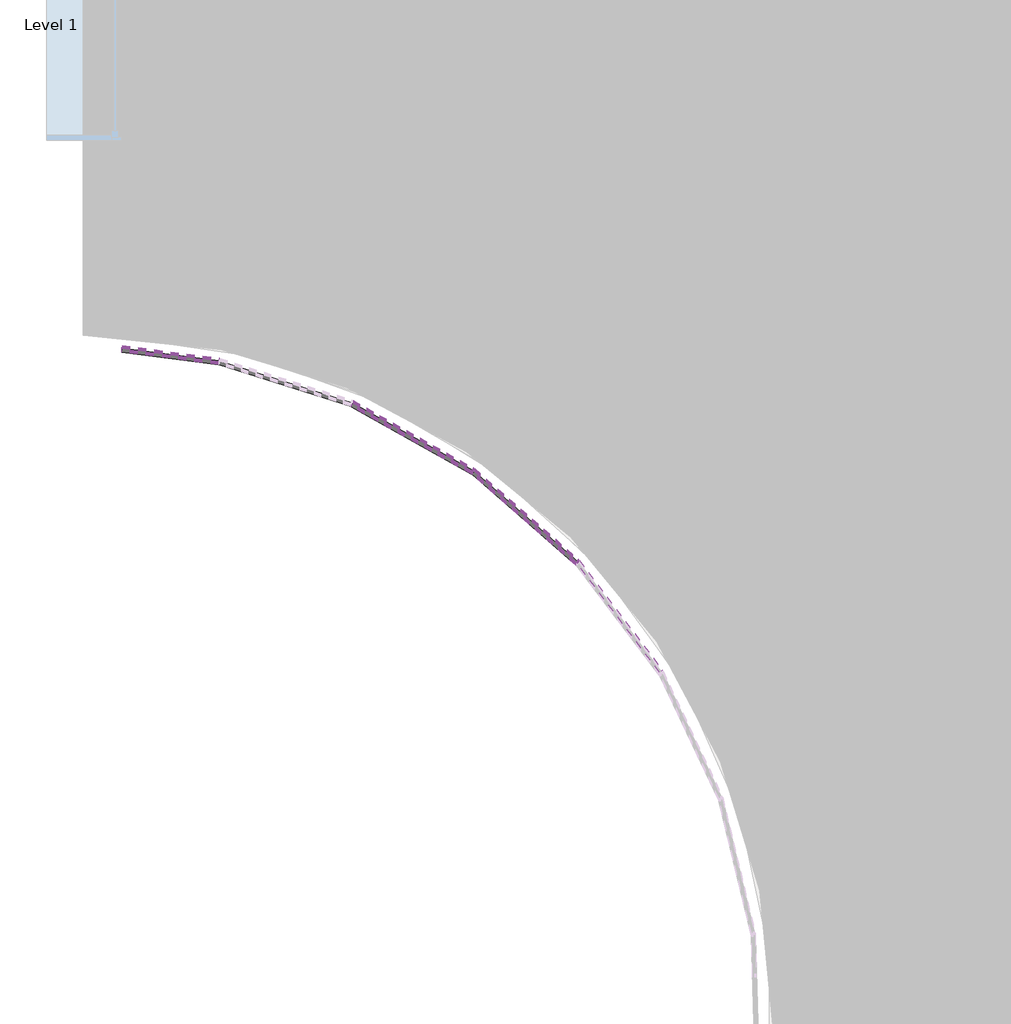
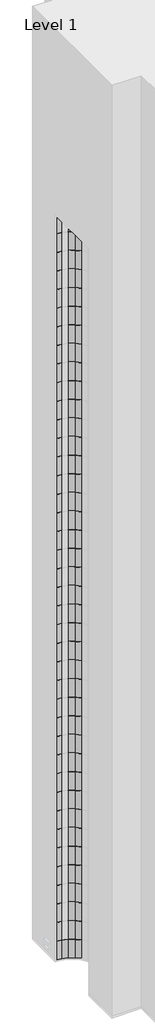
# One storey, part 4 of 20: 122 plates.
"""IFC4 building model written with IfcOpenShell, lengths in millimetres."""

from ifc_helpers import new_model, si_unit, origin, place, context, project, spatial, transform, mapped, element, save
from components import system_panel_glazed_d77d1ebf, system_panel_glazed_769dbdec

model = new_model("IFC4")

# Units and contexts
model_context = context("Model", 3, world=origin())
ifc_project = project(units=[si_unit("LENGTHUNIT", "METRE", prefix="MILLI")], contexts=[model_context])

# Site, building, storey
site = spatial("IfcSite", under=ifc_project)
building = spatial("IfcBuilding", under=site)
storey = spatial("IfcBuildingStorey", under=building, Name="Level 1", Elevation=0.0)

# Plates
placement = place(None, origin())
system_panel_glazed_shape = system_panel_glazed_d77d1ebf(model_context)
element("IfcPlate", 1, ObjectType="System Panel : Glazed", at=placement, inside=storey, context=model_context, shape_type="MappedRepresentation", body=[
    mapped(system_panel_glazed_shape, transform((-8814.9434469, -2853.0493239, 0.0), x_axis=(-0.7538025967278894, 0.657100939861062, 0.0), y_axis=(-0.657100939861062, -0.7538025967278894, 0.0), z_axis=(0.0, 0.0, 1.0))),
])
element("IfcPlate", 2, ObjectType="System Panel : Glazed", at=placement, inside=storey, context=model_context, shape_type="MappedRepresentation", body=[
    mapped(system_panel_glazed_shape, transform((-9558.369511, -2329.0151794, 0.0), x_axis=(-0.8722386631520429, 0.4890804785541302, 0.0), y_axis=(-0.4890804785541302, -0.8722386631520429, 0.0), z_axis=(0.0, 0.0, 1.0))),
])
element("IfcPlate", 3, ObjectType="System Panel : Glazed", at=placement, inside=storey, context=model_context, shape_type="MappedRepresentation", body=[
    mapped(system_panel_glazed_shape, transform((-10393.2415603, -1968.0681493, 0.0), x_axis=(-0.9538156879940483, 0.30039246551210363, 0.0), y_axis=(-0.30039246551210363, -0.9538156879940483, 0.0), z_axis=(0.0, 0.0, 1.0))),
])
element("IfcPlate", 4, ObjectType="System Panel : Glazed", at=placement, inside=storey, context=model_context, shape_type="MappedRepresentation", body=[
    mapped(system_panel_glazed_shape, transform((-8814.9434469, -2853.0493239, 3048.0), x_axis=(-0.7538025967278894, 0.657100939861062, 0.0), y_axis=(-0.657100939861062, -0.7538025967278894, 0.0), z_axis=(0.0, 0.0, 1.0))),
])
element("IfcPlate", 5, ObjectType="System Panel : Glazed", at=placement, inside=storey, context=model_context, shape_type="MappedRepresentation", body=[
    mapped(system_panel_glazed_shape, transform((-9558.369511, -2329.0151794, 3048.0), x_axis=(-0.8722386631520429, 0.4890804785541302, 0.0), y_axis=(-0.4890804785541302, -0.8722386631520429, 0.0), z_axis=(0.0, 0.0, 1.0))),
])
element("IfcPlate", 6, ObjectType="System Panel : Glazed", at=placement, inside=storey, context=model_context, shape_type="MappedRepresentation", body=[
    mapped(system_panel_glazed_shape, transform((-8814.9434469, -2853.0493239, 6096.0), x_axis=(-0.7538025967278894, 0.657100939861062, 0.0), y_axis=(-0.657100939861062, -0.7538025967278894, 0.0), z_axis=(0.0, 0.0, 1.0))),
])
element("IfcPlate", 7, ObjectType="System Panel : Glazed", at=placement, inside=storey, context=model_context, shape_type="MappedRepresentation", body=[
    mapped(system_panel_glazed_shape, transform((-9558.369511, -2329.0151794, 6096.0), x_axis=(-0.8722386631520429, 0.4890804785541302, 0.0), y_axis=(-0.4890804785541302, -0.8722386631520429, 0.0), z_axis=(0.0, 0.0, 1.0))),
])
element("IfcPlate", 8, ObjectType="System Panel : Glazed", at=placement, inside=storey, context=model_context, shape_type="MappedRepresentation", body=[
    mapped(system_panel_glazed_shape, transform((-8814.9434469, -2853.0493239, 9144.0), x_axis=(-0.7538025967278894, 0.657100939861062, 0.0), y_axis=(-0.657100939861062, -0.7538025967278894, 0.0), z_axis=(0.0, 0.0, 1.0))),
])
element("IfcPlate", 9, ObjectType="System Panel : Glazed", at=placement, inside=storey, context=model_context, shape_type="MappedRepresentation", body=[
    mapped(system_panel_glazed_shape, transform((-9558.369511, -2329.0151794, 9144.0), x_axis=(-0.8722386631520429, 0.4890804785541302, 0.0), y_axis=(-0.4890804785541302, -0.8722386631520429, 0.0), z_axis=(0.0, 0.0, 1.0))),
])
element("IfcPlate", 10, ObjectType="System Panel : Glazed", at=placement, inside=storey, context=model_context, shape_type="MappedRepresentation", body=[
    mapped(system_panel_glazed_shape, transform((-8814.9434469, -2853.0493239, 12192.0), x_axis=(-0.7538025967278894, 0.657100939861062, 0.0), y_axis=(-0.657100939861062, -0.7538025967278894, 0.0), z_axis=(0.0, 0.0, 1.0))),
])
element("IfcPlate", 11, ObjectType="System Panel : Glazed", at=placement, inside=storey, context=model_context, shape_type="MappedRepresentation", body=[
    mapped(system_panel_glazed_shape, transform((-9558.369511, -2329.0151794, 12192.0), x_axis=(-0.8722386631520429, 0.4890804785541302, 0.0), y_axis=(-0.4890804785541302, -0.8722386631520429, 0.0), z_axis=(0.0, 0.0, 1.0))),
])
element("IfcPlate", 12, ObjectType="System Panel : Glazed", at=placement, inside=storey, context=model_context, shape_type="MappedRepresentation", body=[
    mapped(system_panel_glazed_shape, transform((-8814.9434469, -2853.0493239, 15240.0), x_axis=(-0.7538025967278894, 0.657100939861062, 0.0), y_axis=(-0.657100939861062, -0.7538025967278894, 0.0), z_axis=(0.0, 0.0, 1.0))),
])
element("IfcPlate", 13, ObjectType="System Panel : Glazed", at=placement, inside=storey, context=model_context, shape_type="MappedRepresentation", body=[
    mapped(system_panel_glazed_shape, transform((-9558.369511, -2329.0151794, 15240.0), x_axis=(-0.8722386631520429, 0.4890804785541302, 0.0), y_axis=(-0.4890804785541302, -0.8722386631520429, 0.0), z_axis=(0.0, 0.0, 1.0))),
])
element("IfcPlate", 14, ObjectType="System Panel : Glazed", at=placement, inside=storey, context=model_context, shape_type="MappedRepresentation", body=[
    mapped(system_panel_glazed_shape, transform((-8814.9434469, -2853.0493239, 18288.0), x_axis=(-0.7538025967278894, 0.657100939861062, 0.0), y_axis=(-0.657100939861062, -0.7538025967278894, 0.0), z_axis=(0.0, 0.0, 1.0))),
])
element("IfcPlate", 15, ObjectType="System Panel : Glazed", at=placement, inside=storey, context=model_context, shape_type="MappedRepresentation", body=[
    mapped(system_panel_glazed_shape, transform((-9558.369511, -2329.0151794, 18288.0), x_axis=(-0.8722386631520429, 0.48908047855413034, 0.0), y_axis=(-0.48908047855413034, -0.8722386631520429, 0.0), z_axis=(0.0, 0.0, 1.0))),
])
element("IfcPlate", 16, ObjectType="System Panel : Glazed", at=placement, inside=storey, context=model_context, shape_type="MappedRepresentation", body=[
    mapped(system_panel_glazed_shape, transform((-8814.9434469, -2853.0493239, 21336.0), x_axis=(-0.7538025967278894, 0.657100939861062, 0.0), y_axis=(-0.657100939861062, -0.7538025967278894, 0.0), z_axis=(0.0, 0.0, 1.0))),
])
element("IfcPlate", 17, ObjectType="System Panel : Glazed", at=placement, inside=storey, context=model_context, shape_type="MappedRepresentation", body=[
    mapped(system_panel_glazed_shape, transform((-9558.369511, -2329.0151794, 21336.0), x_axis=(-0.8722386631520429, 0.4890804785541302, 0.0), y_axis=(-0.4890804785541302, -0.8722386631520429, 0.0), z_axis=(0.0, 0.0, 1.0))),
])
element("IfcPlate", 18, ObjectType="System Panel : Glazed", at=placement, inside=storey, context=model_context, shape_type="MappedRepresentation", body=[
    mapped(system_panel_glazed_shape, transform((-8814.9434469, -2853.0493239, 24384.0), x_axis=(-0.7538025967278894, 0.657100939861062, 0.0), y_axis=(-0.657100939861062, -0.7538025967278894, 0.0), z_axis=(0.0, 0.0, 1.0))),
])
element("IfcPlate", 19, ObjectType="System Panel : Glazed", at=placement, inside=storey, context=model_context, shape_type="MappedRepresentation", body=[
    mapped(system_panel_glazed_shape, transform((-9558.369511, -2329.0151794, 24384.0), x_axis=(-0.8722386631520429, 0.4890804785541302, 0.0), y_axis=(-0.4890804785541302, -0.8722386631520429, 0.0), z_axis=(0.0, 0.0, 1.0))),
])
element("IfcPlate", 20, ObjectType="System Panel : Glazed", at=placement, inside=storey, context=model_context, shape_type="MappedRepresentation", body=[
    mapped(system_panel_glazed_shape, transform((-8814.9434469, -2853.0493239, 27432.0), x_axis=(-0.7538025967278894, 0.657100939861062, 0.0), y_axis=(-0.657100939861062, -0.7538025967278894, 0.0), z_axis=(0.0, 0.0, 1.0))),
])
element("IfcPlate", 21, ObjectType="System Panel : Glazed", at=placement, inside=storey, context=model_context, shape_type="MappedRepresentation", body=[
    mapped(system_panel_glazed_shape, transform((-9558.369511, -2329.0151794, 27432.0), x_axis=(-0.8722386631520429, 0.4890804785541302, 0.0), y_axis=(-0.4890804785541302, -0.8722386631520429, 0.0), z_axis=(0.0, 0.0, 1.0))),
])
element("IfcPlate", 22, ObjectType="System Panel : Glazed", at=placement, inside=storey, context=model_context, shape_type="MappedRepresentation", body=[
    mapped(system_panel_glazed_shape, transform((-8814.9434469, -2853.0493239, 30480.0), x_axis=(-0.7538025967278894, 0.657100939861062, 0.0), y_axis=(-0.657100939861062, -0.7538025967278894, 0.0), z_axis=(0.0, 0.0, 1.0))),
])
element("IfcPlate", 23, ObjectType="System Panel : Glazed", at=placement, inside=storey, context=model_context, shape_type="MappedRepresentation", body=[
    mapped(system_panel_glazed_shape, transform((-9558.369511, -2329.0151794, 30480.0), x_axis=(-0.8722386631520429, 0.4890804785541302, 0.0), y_axis=(-0.4890804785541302, -0.8722386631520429, 0.0), z_axis=(0.0, 0.0, 1.0))),
])
element("IfcPlate", 24, ObjectType="System Panel : Glazed", at=placement, inside=storey, context=model_context, shape_type="MappedRepresentation", body=[
    mapped(system_panel_glazed_shape, transform((-8814.9434469, -2853.0493239, 33528.0), x_axis=(-0.7538025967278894, 0.657100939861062, 0.0), y_axis=(-0.657100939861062, -0.7538025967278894, 0.0), z_axis=(0.0, 0.0, 1.0))),
])
element("IfcPlate", 25, ObjectType="System Panel : Glazed", at=placement, inside=storey, context=model_context, shape_type="MappedRepresentation", body=[
    mapped(system_panel_glazed_shape, transform((-9558.369511, -2329.0151794, 33528.0), x_axis=(-0.8722386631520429, 0.4890804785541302, 0.0), y_axis=(-0.4890804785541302, -0.8722386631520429, 0.0), z_axis=(0.0, 0.0, 1.0))),
])
element("IfcPlate", 26, ObjectType="System Panel : Glazed", at=placement, inside=storey, context=model_context, shape_type="MappedRepresentation", body=[
    mapped(system_panel_glazed_shape, transform((-8814.9434469, -2853.0493239, 36576.0), x_axis=(-0.7538025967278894, 0.657100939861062, 0.0), y_axis=(-0.657100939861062, -0.7538025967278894, 0.0), z_axis=(0.0, 0.0, 1.0))),
])
element("IfcPlate", 27, ObjectType="System Panel : Glazed", at=placement, inside=storey, context=model_context, shape_type="MappedRepresentation", body=[
    mapped(system_panel_glazed_shape, transform((-9558.369511, -2329.0151794, 36576.0), x_axis=(-0.8722386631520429, 0.4890804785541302, 0.0), y_axis=(-0.4890804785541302, -0.8722386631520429, 0.0), z_axis=(0.0, 0.0, 1.0))),
])
element("IfcPlate", 28, ObjectType="System Panel : Glazed", at=placement, inside=storey, context=model_context, shape_type="MappedRepresentation", body=[
    mapped(system_panel_glazed_shape, transform((-8814.9434469, -2853.0493239, 39624.0), x_axis=(-0.7538025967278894, 0.657100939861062, 0.0), y_axis=(-0.657100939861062, -0.7538025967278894, 0.0), z_axis=(0.0, 0.0, 1.0))),
])
element("IfcPlate", 29, ObjectType="System Panel : Glazed", at=placement, inside=storey, context=model_context, shape_type="MappedRepresentation", body=[
    mapped(system_panel_glazed_shape, transform((-9558.369511, -2329.0151794, 39624.0), x_axis=(-0.8722386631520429, 0.4890804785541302, 0.0), y_axis=(-0.4890804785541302, -0.8722386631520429, 0.0), z_axis=(0.0, 0.0, 1.0))),
])
element("IfcPlate", 30, ObjectType="System Panel : Glazed", at=placement, inside=storey, context=model_context, shape_type="MappedRepresentation", body=[
    mapped(system_panel_glazed_shape, transform((-8814.9434469, -2853.0493239, 42672.0), x_axis=(-0.7538025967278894, 0.657100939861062, 0.0), y_axis=(-0.657100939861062, -0.7538025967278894, 0.0), z_axis=(0.0, 0.0, 1.0))),
])
element("IfcPlate", 31, ObjectType="System Panel : Glazed", at=placement, inside=storey, context=model_context, shape_type="MappedRepresentation", body=[
    mapped(system_panel_glazed_shape, transform((-9558.369511, -2329.0151794, 42672.0), x_axis=(-0.8722386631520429, 0.4890804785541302, 0.0), y_axis=(-0.4890804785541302, -0.8722386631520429, 0.0), z_axis=(0.0, 0.0, 1.0))),
])
element("IfcPlate", 32, ObjectType="System Panel : Glazed", at=placement, inside=storey, context=model_context, shape_type="MappedRepresentation", body=[
    mapped(system_panel_glazed_shape, transform((-8814.9434469, -2853.0493239, 45720.0), x_axis=(-0.7538025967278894, 0.657100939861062, 0.0), y_axis=(-0.657100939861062, -0.7538025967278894, 0.0), z_axis=(0.0, 0.0, 1.0))),
])
element("IfcPlate", 33, ObjectType="System Panel : Glazed", at=placement, inside=storey, context=model_context, shape_type="MappedRepresentation", body=[
    mapped(system_panel_glazed_shape, transform((-9558.369511, -2329.0151794, 45720.0), x_axis=(-0.8722386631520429, 0.4890804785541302, 0.0), y_axis=(-0.4890804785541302, -0.8722386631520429, 0.0), z_axis=(0.0, 0.0, 1.0))),
])
element("IfcPlate", 34, ObjectType="System Panel : Glazed", at=placement, inside=storey, context=model_context, shape_type="MappedRepresentation", body=[
    mapped(system_panel_glazed_shape, transform((-8814.9434469, -2853.0493239, 48768.0), x_axis=(-0.7538025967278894, 0.657100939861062, 0.0), y_axis=(-0.657100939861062, -0.7538025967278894, 0.0), z_axis=(0.0, 0.0, 1.0))),
])
element("IfcPlate", 35, ObjectType="System Panel : Glazed", at=placement, inside=storey, context=model_context, shape_type="MappedRepresentation", body=[
    mapped(system_panel_glazed_shape, transform((-9558.369511, -2329.0151794, 48768.0), x_axis=(-0.8722386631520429, 0.4890804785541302, 0.0), y_axis=(-0.4890804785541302, -0.8722386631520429, 0.0), z_axis=(0.0, 0.0, 1.0))),
])
element("IfcPlate", 36, ObjectType="System Panel : Glazed", at=placement, inside=storey, context=model_context, shape_type="MappedRepresentation", body=[
    mapped(system_panel_glazed_shape, transform((-8814.9434469, -2853.0493239, 51816.0), x_axis=(-0.7538025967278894, 0.657100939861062, 0.0), y_axis=(-0.657100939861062, -0.7538025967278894, 0.0), z_axis=(0.0, 0.0, 1.0))),
])
element("IfcPlate", 37, ObjectType="System Panel : Glazed", at=placement, inside=storey, context=model_context, shape_type="MappedRepresentation", body=[
    mapped(system_panel_glazed_shape, transform((-9558.369511, -2329.0151794, 51816.0), x_axis=(-0.8722386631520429, 0.4890804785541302, 0.0), y_axis=(-0.4890804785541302, -0.8722386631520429, 0.0), z_axis=(0.0, 0.0, 1.0))),
])
element("IfcPlate", 38, ObjectType="System Panel : Glazed", at=placement, inside=storey, context=model_context, shape_type="MappedRepresentation", body=[
    mapped(system_panel_glazed_shape, transform((-8814.9434469, -2853.0493239, 54864.0), x_axis=(-0.7538025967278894, 0.657100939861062, 0.0), y_axis=(-0.657100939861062, -0.7538025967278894, 0.0), z_axis=(0.0, 0.0, 1.0))),
])
element("IfcPlate", 39, ObjectType="System Panel : Glazed", at=placement, inside=storey, context=model_context, shape_type="MappedRepresentation", body=[
    mapped(system_panel_glazed_shape, transform((-9558.369511, -2329.0151794, 54864.0), x_axis=(-0.8722386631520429, 0.4890804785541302, 0.0), y_axis=(-0.4890804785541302, -0.8722386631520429, 0.0), z_axis=(0.0, 0.0, 1.0))),
])
element("IfcPlate", 40, ObjectType="System Panel : Glazed", at=placement, inside=storey, context=model_context, shape_type="MappedRepresentation", body=[
    mapped(system_panel_glazed_shape, transform((-8814.9434469, -2853.0493239, 57912.0), x_axis=(-0.7538025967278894, 0.657100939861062, 0.0), y_axis=(-0.657100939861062, -0.7538025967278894, 0.0), z_axis=(0.0, 0.0, 1.0))),
])
element("IfcPlate", 41, ObjectType="System Panel : Glazed", at=placement, inside=storey, context=model_context, shape_type="MappedRepresentation", body=[
    mapped(system_panel_glazed_shape, transform((-9558.369511, -2329.0151794, 57912.0), x_axis=(-0.8722386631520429, 0.4890804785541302, 0.0), y_axis=(-0.4890804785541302, -0.8722386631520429, 0.0), z_axis=(0.0, 0.0, 1.0))),
])
element("IfcPlate", 42, ObjectType="System Panel : Glazed", at=placement, inside=storey, context=model_context, shape_type="MappedRepresentation", body=[
    mapped(system_panel_glazed_shape, transform((-8814.9434469, -2853.0493239, 60960.0), x_axis=(-0.7538025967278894, 0.657100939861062, 0.0), y_axis=(-0.657100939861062, -0.7538025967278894, 0.0), z_axis=(0.0, 0.0, 1.0))),
])
element("IfcPlate", 43, ObjectType="System Panel : Glazed", at=placement, inside=storey, context=model_context, shape_type="MappedRepresentation", body=[
    mapped(system_panel_glazed_shape, transform((-9558.369511, -2329.0151794, 60960.0), x_axis=(-0.8722386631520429, 0.4890804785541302, 0.0), y_axis=(-0.4890804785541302, -0.8722386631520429, 0.0), z_axis=(0.0, 0.0, 1.0))),
])
element("IfcPlate", 44, ObjectType="System Panel : Glazed", at=placement, inside=storey, context=model_context, shape_type="MappedRepresentation", body=[
    mapped(system_panel_glazed_shape, transform((-8814.9434469, -2853.0493239, 64008.0), x_axis=(-0.7538025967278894, 0.657100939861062, 0.0), y_axis=(-0.657100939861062, -0.7538025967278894, 0.0), z_axis=(0.0, 0.0, 1.0))),
])
element("IfcPlate", 45, ObjectType="System Panel : Glazed", at=placement, inside=storey, context=model_context, shape_type="MappedRepresentation", body=[
    mapped(system_panel_glazed_shape, transform((-9558.369511, -2329.0151794, 64008.0), x_axis=(-0.8722386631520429, 0.4890804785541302, 0.0), y_axis=(-0.4890804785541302, -0.8722386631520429, 0.0), z_axis=(0.0, 0.0, 1.0))),
])
element("IfcPlate", 46, ObjectType="System Panel : Glazed", at=placement, inside=storey, context=model_context, shape_type="MappedRepresentation", body=[
    mapped(system_panel_glazed_shape, transform((-8814.9434469, -2853.0493239, 67056.0), x_axis=(-0.7538025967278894, 0.657100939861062, 0.0), y_axis=(-0.657100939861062, -0.7538025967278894, 0.0), z_axis=(0.0, 0.0, 1.0))),
])
element("IfcPlate", 47, ObjectType="System Panel : Glazed", at=placement, inside=storey, context=model_context, shape_type="MappedRepresentation", body=[
    mapped(system_panel_glazed_shape, transform((-9558.369511, -2329.0151794, 67056.0), x_axis=(-0.8722386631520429, 0.4890804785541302, 0.0), y_axis=(-0.4890804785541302, -0.8722386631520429, 0.0), z_axis=(0.0, 0.0, 1.0))),
])
element("IfcPlate", 48, ObjectType="System Panel : Glazed", at=placement, inside=storey, context=model_context, shape_type="MappedRepresentation", body=[
    mapped(system_panel_glazed_shape, transform((-8814.9434469, -2853.0493239, 70104.0), x_axis=(-0.7538025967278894, 0.657100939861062, 0.0), y_axis=(-0.657100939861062, -0.7538025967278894, 0.0), z_axis=(0.0, 0.0, 1.0))),
])
element("IfcPlate", 49, ObjectType="System Panel : Glazed", at=placement, inside=storey, context=model_context, shape_type="MappedRepresentation", body=[
    mapped(system_panel_glazed_shape, transform((-9558.369511, -2329.0151794, 70104.0), x_axis=(-0.8722386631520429, 0.4890804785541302, 0.0), y_axis=(-0.4890804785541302, -0.8722386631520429, 0.0), z_axis=(0.0, 0.0, 1.0))),
])
element("IfcPlate", 50, ObjectType="System Panel : Glazed", at=placement, inside=storey, context=model_context, shape_type="MappedRepresentation", body=[
    mapped(system_panel_glazed_shape, transform((-8814.9434469, -2853.0493239, 73152.0), x_axis=(-0.7538025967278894, 0.657100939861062, 0.0), y_axis=(-0.657100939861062, -0.7538025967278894, 0.0), z_axis=(0.0, 0.0, 1.0))),
])
element("IfcPlate", 51, ObjectType="System Panel : Glazed", at=placement, inside=storey, context=model_context, shape_type="MappedRepresentation", body=[
    mapped(system_panel_glazed_shape, transform((-9558.369511, -2329.0151794, 73152.0), x_axis=(-0.8722386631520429, 0.4890804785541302, 0.0), y_axis=(-0.4890804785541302, -0.8722386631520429, 0.0), z_axis=(0.0, 0.0, 1.0))),
])
element("IfcPlate", 52, ObjectType="System Panel : Glazed", at=placement, inside=storey, context=model_context, shape_type="MappedRepresentation", body=[
    mapped(system_panel_glazed_shape, transform((-8814.9434469, -2853.0493239, 76200.0), x_axis=(-0.7538025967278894, 0.657100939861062, 0.0), y_axis=(-0.657100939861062, -0.7538025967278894, 0.0), z_axis=(0.0, 0.0, 1.0))),
])
element("IfcPlate", 53, ObjectType="System Panel : Glazed", at=placement, inside=storey, context=model_context, shape_type="MappedRepresentation", body=[
    mapped(system_panel_glazed_shape, transform((-9558.369511, -2329.0151794, 76200.0), x_axis=(-0.8722386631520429, 0.4890804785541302, 0.0), y_axis=(-0.4890804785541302, -0.8722386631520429, 0.0), z_axis=(0.0, 0.0, 1.0))),
])
element("IfcPlate", 54, ObjectType="System Panel : Glazed", at=placement, inside=storey, context=model_context, shape_type="MappedRepresentation", body=[
    mapped(system_panel_glazed_shape, transform((-8814.9434469, -2853.0493239, 79248.0), x_axis=(-0.7538025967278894, 0.657100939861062, 0.0), y_axis=(-0.657100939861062, -0.7538025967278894, 0.0), z_axis=(0.0, 0.0, 1.0))),
])
element("IfcPlate", 55, ObjectType="System Panel : Glazed", at=placement, inside=storey, context=model_context, shape_type="MappedRepresentation", body=[
    mapped(system_panel_glazed_shape, transform((-9558.369511, -2329.0151794, 79248.0), x_axis=(-0.8722386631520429, 0.4890804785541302, 0.0), y_axis=(-0.4890804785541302, -0.8722386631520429, 0.0), z_axis=(0.0, 0.0, 1.0))),
])
element("IfcPlate", 56, ObjectType="System Panel : Glazed", at=placement, inside=storey, context=model_context, shape_type="MappedRepresentation", body=[
    mapped(system_panel_glazed_shape, transform((-8814.9434469, -2853.0493239, 82296.0), x_axis=(-0.7538025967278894, 0.657100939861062, 0.0), y_axis=(-0.657100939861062, -0.7538025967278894, 0.0), z_axis=(0.0, 0.0, 1.0))),
])
element("IfcPlate", 57, ObjectType="System Panel : Glazed", at=placement, inside=storey, context=model_context, shape_type="MappedRepresentation", body=[
    mapped(system_panel_glazed_shape, transform((-9558.369511, -2329.0151794, 82296.0), x_axis=(-0.8722386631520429, 0.4890804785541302, 0.0), y_axis=(-0.4890804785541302, -0.8722386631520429, 0.0), z_axis=(0.0, 0.0, 1.0))),
])
element("IfcPlate", 58, ObjectType="System Panel : Glazed", at=placement, inside=storey, context=model_context, shape_type="MappedRepresentation", body=[
    mapped(system_panel_glazed_shape, transform((-8814.9434469, -2853.0493239, 85344.0), x_axis=(-0.7538025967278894, 0.657100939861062, 0.0), y_axis=(-0.657100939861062, -0.7538025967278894, 0.0), z_axis=(0.0, 0.0, 1.0))),
])
element("IfcPlate", 59, ObjectType="System Panel : Glazed", at=placement, inside=storey, context=model_context, shape_type="MappedRepresentation", body=[
    mapped(system_panel_glazed_shape, transform((-9558.369511, -2329.0151794, 85344.0), x_axis=(-0.8722386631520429, 0.4890804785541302, 0.0), y_axis=(-0.4890804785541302, -0.8722386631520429, 0.0), z_axis=(0.0, 0.0, 1.0))),
])
element("IfcPlate", 60, ObjectType="System Panel : Glazed", at=placement, inside=storey, context=model_context, shape_type="MappedRepresentation", body=[
    mapped(system_panel_glazed_shape, transform((-8814.9434469, -2853.0493239, 88392.0), x_axis=(-0.7538025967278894, 0.657100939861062, 0.0), y_axis=(-0.657100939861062, -0.7538025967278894, 0.0), z_axis=(0.0, 0.0, 1.0))),
])
element("IfcPlate", 61, ObjectType="System Panel : Glazed", at=placement, inside=storey, context=model_context, shape_type="MappedRepresentation", body=[
    mapped(system_panel_glazed_shape, transform((-9558.369511, -2329.0151794, 88392.0), x_axis=(-0.8722386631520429, 0.4890804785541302, 0.0), y_axis=(-0.4890804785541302, -0.8722386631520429, 0.0), z_axis=(0.0, 0.0, 1.0))),
])
element("IfcPlate", 62, ObjectType="System Panel : Glazed", at=placement, inside=storey, context=model_context, shape_type="MappedRepresentation", body=[
    mapped(system_panel_glazed_shape, transform((-8814.9434469, -2853.0493239, 91440.0), x_axis=(-0.7538025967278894, 0.657100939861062, 0.0), y_axis=(-0.657100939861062, -0.7538025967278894, 0.0), z_axis=(0.0, 0.0, 1.0))),
])
element("IfcPlate", 63, ObjectType="System Panel : Glazed", at=placement, inside=storey, context=model_context, shape_type="MappedRepresentation", body=[
    mapped(system_panel_glazed_shape, transform((-9558.369511, -2329.0151794, 91440.0), x_axis=(-0.8722386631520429, 0.4890804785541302, 0.0), y_axis=(-0.4890804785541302, -0.8722386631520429, 0.0), z_axis=(0.0, 0.0, 1.0))),
])
element("IfcPlate", 64, ObjectType="System Panel : Glazed", at=placement, inside=storey, context=model_context, shape_type="MappedRepresentation", body=[
    mapped(system_panel_glazed_shape, transform((-8814.9434469, -2853.0493239, 94488.0), x_axis=(-0.7538025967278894, 0.657100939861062, 0.0), y_axis=(-0.657100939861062, -0.7538025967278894, 0.0), z_axis=(0.0, 0.0, 1.0))),
])
element("IfcPlate", 65, ObjectType="System Panel : Glazed", at=placement, inside=storey, context=model_context, shape_type="MappedRepresentation", body=[
    mapped(system_panel_glazed_shape, transform((-9558.369511, -2329.0151794, 94488.0), x_axis=(-0.8722386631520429, 0.4890804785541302, 0.0), y_axis=(-0.4890804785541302, -0.8722386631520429, 0.0), z_axis=(0.0, 0.0, 1.0))),
])
element("IfcPlate", 66, ObjectType="System Panel : Glazed", at=placement, inside=storey, context=model_context, shape_type="MappedRepresentation", body=[
    mapped(system_panel_glazed_shape, transform((-8814.9434469, -2853.0493239, 97536.0), x_axis=(-0.7538025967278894, 0.657100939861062, 0.0), y_axis=(-0.657100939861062, -0.7538025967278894, 0.0), z_axis=(0.0, 0.0, 1.0))),
])
element("IfcPlate", 67, ObjectType="System Panel : Glazed", at=placement, inside=storey, context=model_context, shape_type="MappedRepresentation", body=[
    mapped(system_panel_glazed_shape, transform((-9558.369511, -2329.0151794, 97536.0), x_axis=(-0.8722386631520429, 0.4890804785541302, 0.0), y_axis=(-0.4890804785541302, -0.8722386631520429, 0.0), z_axis=(0.0, 0.0, 1.0))),
])
element("IfcPlate", 68, ObjectType="System Panel : Glazed", at=placement, inside=storey, context=model_context, shape_type="MappedRepresentation", body=[
    mapped(system_panel_glazed_shape, transform((-8814.9434469, -2853.0493239, 100584.0), x_axis=(-0.7538025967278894, 0.657100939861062, 0.0), y_axis=(-0.657100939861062, -0.7538025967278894, 0.0), z_axis=(0.0, 0.0, 1.0))),
])
element("IfcPlate", 69, ObjectType="System Panel : Glazed", at=placement, inside=storey, context=model_context, shape_type="MappedRepresentation", body=[
    mapped(system_panel_glazed_shape, transform((-9558.369511, -2329.0151794, 100584.0), x_axis=(-0.8722386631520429, 0.4890804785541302, 0.0), y_axis=(-0.4890804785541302, -0.8722386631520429, 0.0), z_axis=(0.0, 0.0, 1.0))),
])
element("IfcPlate", 70, ObjectType="System Panel : Glazed", at=placement, inside=storey, context=model_context, shape_type="MappedRepresentation", body=[
    mapped(system_panel_glazed_shape, transform((-8814.9434469, -2853.0493239, 103632.0), x_axis=(-0.7538025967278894, 0.657100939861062, 0.0), y_axis=(-0.657100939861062, -0.7538025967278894, 0.0), z_axis=(0.0, 0.0, 1.0))),
])
element("IfcPlate", 71, ObjectType="System Panel : Glazed", at=placement, inside=storey, context=model_context, shape_type="MappedRepresentation", body=[
    mapped(system_panel_glazed_shape, transform((-9558.369511, -2329.0151794, 103632.0), x_axis=(-0.8722386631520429, 0.4890804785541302, 0.0), y_axis=(-0.4890804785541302, -0.8722386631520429, 0.0), z_axis=(0.0, 0.0, 1.0))),
])
element("IfcPlate", 72, ObjectType="System Panel : Glazed", at=placement, inside=storey, context=model_context, shape_type="MappedRepresentation", body=[
    mapped(system_panel_glazed_shape, transform((-8814.9434469, -2853.0493239, 106680.0), x_axis=(-0.7538025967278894, 0.657100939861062, 0.0), y_axis=(-0.657100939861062, -0.7538025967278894, 0.0), z_axis=(0.0, 0.0, 1.0))),
])
element("IfcPlate", 73, ObjectType="System Panel : Glazed", at=placement, inside=storey, context=model_context, shape_type="MappedRepresentation", body=[
    mapped(system_panel_glazed_shape, transform((-9558.369511, -2329.0151794, 106680.0), x_axis=(-0.8722386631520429, 0.4890804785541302, 0.0), y_axis=(-0.4890804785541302, -0.8722386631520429, 0.0), z_axis=(0.0, 0.0, 1.0))),
])
element("IfcPlate", 74, ObjectType="System Panel : Glazed", at=placement, inside=storey, context=model_context, shape_type="MappedRepresentation", body=[
    mapped(system_panel_glazed_shape, transform((-8814.9434469, -2853.0493239, 109728.0), x_axis=(-0.7538025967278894, 0.657100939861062, 0.0), y_axis=(-0.657100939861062, -0.7538025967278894, 0.0), z_axis=(0.0, 0.0, 1.0))),
])
element("IfcPlate", 75, ObjectType="System Panel : Glazed", at=placement, inside=storey, context=model_context, shape_type="MappedRepresentation", body=[
    mapped(system_panel_glazed_shape, transform((-9558.369511, -2329.0151794, 109728.0), x_axis=(-0.8722386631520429, 0.4890804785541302, 0.0), y_axis=(-0.4890804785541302, -0.8722386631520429, 0.0), z_axis=(0.0, 0.0, 1.0))),
])
element("IfcPlate", 76, ObjectType="System Panel : Glazed", at=placement, inside=storey, context=model_context, shape_type="MappedRepresentation", body=[
    mapped(system_panel_glazed_shape, transform((-8814.9434469, -2853.0493239, 112776.0), x_axis=(-0.7538025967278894, 0.657100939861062, 0.0), y_axis=(-0.657100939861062, -0.7538025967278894, 0.0), z_axis=(0.0, 0.0, 1.0))),
])
element("IfcPlate", 77, ObjectType="System Panel : Glazed", at=placement, inside=storey, context=model_context, shape_type="MappedRepresentation", body=[
    mapped(system_panel_glazed_shape, transform((-9558.369511, -2329.0151794, 112776.0), x_axis=(-0.8722386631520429, 0.4890804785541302, 0.0), y_axis=(-0.4890804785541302, -0.8722386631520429, 0.0), z_axis=(0.0, 0.0, 1.0))),
])
element("IfcPlate", 78, ObjectType="System Panel : Glazed", at=placement, inside=storey, context=model_context, shape_type="MappedRepresentation", body=[
    mapped(system_panel_glazed_shape, transform((-8814.9434469, -2853.0493239, 115824.0), x_axis=(-0.7538025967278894, 0.657100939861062, 0.0), y_axis=(-0.657100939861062, -0.7538025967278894, 0.0), z_axis=(0.0, 0.0, 1.0))),
])
element("IfcPlate", 79, ObjectType="System Panel : Glazed", at=placement, inside=storey, context=model_context, shape_type="MappedRepresentation", body=[
    mapped(system_panel_glazed_shape, transform((-9558.369511, -2329.0151794, 115824.0), x_axis=(-0.8722386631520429, 0.4890804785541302, 0.0), y_axis=(-0.4890804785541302, -0.8722386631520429, 0.0), z_axis=(0.0, 0.0, 1.0))),
])
element("IfcPlate", 80, ObjectType="System Panel : Glazed", at=placement, inside=storey, context=model_context, shape_type="MappedRepresentation", body=[
    mapped(system_panel_glazed_shape, transform((-8194.3790499, -3518.0259599, 118872.0), x_axis=(-0.6035123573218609, 0.7973536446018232, 0.0), y_axis=(-0.7973536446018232, -0.6035123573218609, 0.0), z_axis=(0.0, 0.0, 1.0))),
])
element("IfcPlate", 81, ObjectType="System Panel : Glazed", at=placement, inside=storey, context=model_context, shape_type="MappedRepresentation", body=[
    mapped(system_panel_glazed_shape, transform((-8814.9434469, -2853.0493239, 118872.0), x_axis=(-0.7538025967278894, 0.657100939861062, 0.0), y_axis=(-0.657100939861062, -0.7538025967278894, 0.0), z_axis=(0.0, 0.0, 1.0))),
])
element("IfcPlate", 82, ObjectType="System Panel : Glazed", at=placement, inside=storey, context=model_context, shape_type="MappedRepresentation", body=[
    mapped(system_panel_glazed_shape, transform((-9558.369511, -2329.0151794, 118872.0), x_axis=(-0.8722386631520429, 0.4890804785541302, 0.0), y_axis=(-0.4890804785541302, -0.8722386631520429, 0.0), z_axis=(0.0, 0.0, 1.0))),
])
system_panel_glazed_2_shape = system_panel_glazed_769dbdec(model_context)
element("IfcPlate", 83, ObjectType="System Panel : Glazed", at=placement, inside=storey, context=model_context, shape_type="MappedRepresentation", body=[
    mapped(system_panel_glazed_2_shape, transform((-11150.4320192, -1788.9838434, 0.0), x_axis=(-0.9916551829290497, 0.12891857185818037, 0.0), y_axis=(-0.12891857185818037, -0.9916551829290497, 0.0), z_axis=(0.0, 0.0, 1.0))),
])
element("IfcPlate", 84, ObjectType="System Panel : Glazed", at=placement, inside=storey, context=model_context, shape_type="MappedRepresentation", body=[
    mapped(system_panel_glazed_2_shape, transform((-11150.4320192, -1788.9838434, 3048.0), x_axis=(-0.9916551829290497, 0.12891857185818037, 0.0), y_axis=(-0.12891857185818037, -0.9916551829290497, 0.0), z_axis=(0.0, 0.0, 1.0))),
])
element("IfcPlate", 85, ObjectType="System Panel : Glazed", at=placement, inside=storey, context=model_context, shape_type="MappedRepresentation", body=[
    mapped(system_panel_glazed_2_shape, transform((-11150.4320192, -1788.9838434, 6096.0), x_axis=(-0.9916551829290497, 0.12891857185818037, 0.0), y_axis=(-0.12891857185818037, -0.9916551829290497, 0.0), z_axis=(0.0, 0.0, 1.0))),
])
element("IfcPlate", 86, ObjectType="System Panel : Glazed", at=placement, inside=storey, context=model_context, shape_type="MappedRepresentation", body=[
    mapped(system_panel_glazed_2_shape, transform((-11150.4320192, -1788.9838434, 9144.0), x_axis=(-0.9916551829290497, 0.12891857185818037, 0.0), y_axis=(-0.12891857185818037, -0.9916551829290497, 0.0), z_axis=(0.0, 0.0, 1.0))),
])
element("IfcPlate", 87, ObjectType="System Panel : Glazed", at=placement, inside=storey, context=model_context, shape_type="MappedRepresentation", body=[
    mapped(system_panel_glazed_2_shape, transform((-11150.4320192, -1788.9838434, 12192.0), x_axis=(-0.9916551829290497, 0.12891857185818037, 0.0), y_axis=(-0.12891857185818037, -0.9916551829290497, 0.0), z_axis=(0.0, 0.0, 1.0))),
])
element("IfcPlate", 88, ObjectType="System Panel : Glazed", at=placement, inside=storey, context=model_context, shape_type="MappedRepresentation", body=[
    mapped(system_panel_glazed_2_shape, transform((-11150.4320192, -1788.9838434, 15240.0), x_axis=(-0.9916551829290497, 0.12891857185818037, 0.0), y_axis=(-0.12891857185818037, -0.9916551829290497, 0.0), z_axis=(0.0, 0.0, 1.0))),
])
element("IfcPlate", 89, ObjectType="System Panel : Glazed", at=placement, inside=storey, context=model_context, shape_type="MappedRepresentation", body=[
    mapped(system_panel_glazed_2_shape, transform((-11150.4320192, -1788.9838434, 18288.0), x_axis=(-0.9916551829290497, 0.12891857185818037, 0.0), y_axis=(-0.12891857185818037, -0.9916551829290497, 0.0), z_axis=(0.0, 0.0, 1.0))),
])
element("IfcPlate", 90, ObjectType="System Panel : Glazed", at=placement, inside=storey, context=model_context, shape_type="MappedRepresentation", body=[
    mapped(system_panel_glazed_2_shape, transform((-11150.4320192, -1788.9838434, 21336.0), x_axis=(-0.9916551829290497, 0.12891857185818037, 0.0), y_axis=(-0.12891857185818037, -0.9916551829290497, 0.0), z_axis=(0.0, 0.0, 1.0))),
])
element("IfcPlate", 91, ObjectType="System Panel : Glazed", at=placement, inside=storey, context=model_context, shape_type="MappedRepresentation", body=[
    mapped(system_panel_glazed_2_shape, transform((-11150.4320192, -1788.9838434, 24384.0), x_axis=(-0.9916551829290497, 0.12891857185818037, 0.0), y_axis=(-0.12891857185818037, -0.9916551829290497, 0.0), z_axis=(0.0, 0.0, 1.0))),
])
element("IfcPlate", 92, ObjectType="System Panel : Glazed", at=placement, inside=storey, context=model_context, shape_type="MappedRepresentation", body=[
    mapped(system_panel_glazed_2_shape, transform((-11150.4320192, -1788.9838434, 27432.0), x_axis=(-0.9916551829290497, 0.12891857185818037, 0.0), y_axis=(-0.12891857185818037, -0.9916551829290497, 0.0), z_axis=(0.0, 0.0, 1.0))),
])
element("IfcPlate", 93, ObjectType="System Panel : Glazed", at=placement, inside=storey, context=model_context, shape_type="MappedRepresentation", body=[
    mapped(system_panel_glazed_2_shape, transform((-11150.4320192, -1788.9838434, 30480.0), x_axis=(-0.9916551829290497, 0.12891857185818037, 0.0), y_axis=(-0.12891857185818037, -0.9916551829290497, 0.0), z_axis=(0.0, 0.0, 1.0))),
])
element("IfcPlate", 94, ObjectType="System Panel : Glazed", at=placement, inside=storey, context=model_context, shape_type="MappedRepresentation", body=[
    mapped(system_panel_glazed_2_shape, transform((-11150.4320192, -1788.9838434, 33528.0), x_axis=(-0.9916551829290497, 0.12891857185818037, 0.0), y_axis=(-0.12891857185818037, -0.9916551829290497, 0.0), z_axis=(0.0, 0.0, 1.0))),
])
element("IfcPlate", 95, ObjectType="System Panel : Glazed", at=placement, inside=storey, context=model_context, shape_type="MappedRepresentation", body=[
    mapped(system_panel_glazed_2_shape, transform((-11150.4320192, -1788.9838434, 36576.0), x_axis=(-0.9916551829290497, 0.12891857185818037, 0.0), y_axis=(-0.12891857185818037, -0.9916551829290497, 0.0), z_axis=(0.0, 0.0, 1.0))),
])
element("IfcPlate", 96, ObjectType="System Panel : Glazed", at=placement, inside=storey, context=model_context, shape_type="MappedRepresentation", body=[
    mapped(system_panel_glazed_2_shape, transform((-11150.4320192, -1788.9838434, 39624.0), x_axis=(-0.9916551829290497, 0.12891857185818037, 0.0), y_axis=(-0.12891857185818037, -0.9916551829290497, 0.0), z_axis=(0.0, 0.0, 1.0))),
])
element("IfcPlate", 97, ObjectType="System Panel : Glazed", at=placement, inside=storey, context=model_context, shape_type="MappedRepresentation", body=[
    mapped(system_panel_glazed_2_shape, transform((-11150.4320192, -1788.9838434, 42672.0), x_axis=(-0.9916551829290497, 0.12891857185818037, 0.0), y_axis=(-0.12891857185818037, -0.9916551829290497, 0.0), z_axis=(0.0, 0.0, 1.0))),
])
element("IfcPlate", 98, ObjectType="System Panel : Glazed", at=placement, inside=storey, context=model_context, shape_type="MappedRepresentation", body=[
    mapped(system_panel_glazed_2_shape, transform((-11150.4320192, -1788.9838434, 45720.0), x_axis=(-0.9916551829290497, 0.12891857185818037, 0.0), y_axis=(-0.12891857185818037, -0.9916551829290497, 0.0), z_axis=(0.0, 0.0, 1.0))),
])
element("IfcPlate", 99, ObjectType="System Panel : Glazed", at=placement, inside=storey, context=model_context, shape_type="MappedRepresentation", body=[
    mapped(system_panel_glazed_2_shape, transform((-11150.4320192, -1788.9838434, 48768.0), x_axis=(-0.9916551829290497, 0.12891857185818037, 0.0), y_axis=(-0.12891857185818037, -0.9916551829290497, 0.0), z_axis=(0.0, 0.0, 1.0))),
])
element("IfcPlate", 100, ObjectType="System Panel : Glazed", at=placement, inside=storey, context=model_context, shape_type="MappedRepresentation", body=[
    mapped(system_panel_glazed_2_shape, transform((-11150.4320192, -1788.9838434, 51816.0), x_axis=(-0.9916551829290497, 0.12891857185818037, 0.0), y_axis=(-0.12891857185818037, -0.9916551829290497, 0.0), z_axis=(0.0, 0.0, 1.0))),
])
element("IfcPlate", 101, ObjectType="System Panel : Glazed", at=placement, inside=storey, context=model_context, shape_type="MappedRepresentation", body=[
    mapped(system_panel_glazed_2_shape, transform((-11150.4320192, -1788.9838434, 54864.0), x_axis=(-0.9916551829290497, 0.12891857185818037, 0.0), y_axis=(-0.12891857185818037, -0.9916551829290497, 0.0), z_axis=(0.0, 0.0, 1.0))),
])
element("IfcPlate", 102, ObjectType="System Panel : Glazed", at=placement, inside=storey, context=model_context, shape_type="MappedRepresentation", body=[
    mapped(system_panel_glazed_2_shape, transform((-11150.4320192, -1788.9838434, 57912.0), x_axis=(-0.9916551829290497, 0.12891857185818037, 0.0), y_axis=(-0.12891857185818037, -0.9916551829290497, 0.0), z_axis=(0.0, 0.0, 1.0))),
])
element("IfcPlate", 103, ObjectType="System Panel : Glazed", at=placement, inside=storey, context=model_context, shape_type="MappedRepresentation", body=[
    mapped(system_panel_glazed_2_shape, transform((-11150.4320192, -1788.9838434, 60960.0), x_axis=(-0.9916551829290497, 0.12891857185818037, 0.0), y_axis=(-0.12891857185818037, -0.9916551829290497, 0.0), z_axis=(0.0, 0.0, 1.0))),
])
element("IfcPlate", 104, ObjectType="System Panel : Glazed", at=placement, inside=storey, context=model_context, shape_type="MappedRepresentation", body=[
    mapped(system_panel_glazed_2_shape, transform((-11150.4320192, -1788.9838434, 64008.0), x_axis=(-0.9916551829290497, 0.12891857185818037, 0.0), y_axis=(-0.12891857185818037, -0.9916551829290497, 0.0), z_axis=(0.0, 0.0, 1.0))),
])
element("IfcPlate", 105, ObjectType="System Panel : Glazed", at=placement, inside=storey, context=model_context, shape_type="MappedRepresentation", body=[
    mapped(system_panel_glazed_2_shape, transform((-11150.4320192, -1788.9838434, 67056.0), x_axis=(-0.9916551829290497, 0.12891857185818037, 0.0), y_axis=(-0.12891857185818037, -0.9916551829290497, 0.0), z_axis=(0.0, 0.0, 1.0))),
])
element("IfcPlate", 106, ObjectType="System Panel : Glazed", at=placement, inside=storey, context=model_context, shape_type="MappedRepresentation", body=[
    mapped(system_panel_glazed_2_shape, transform((-11150.4320192, -1788.9838434, 70104.0), x_axis=(-0.9916551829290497, 0.12891857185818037, 0.0), y_axis=(-0.12891857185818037, -0.9916551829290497, 0.0), z_axis=(0.0, 0.0, 1.0))),
])
element("IfcPlate", 107, ObjectType="System Panel : Glazed", at=placement, inside=storey, context=model_context, shape_type="MappedRepresentation", body=[
    mapped(system_panel_glazed_2_shape, transform((-11150.4320192, -1788.9838434, 73152.0), x_axis=(-0.9916551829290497, 0.12891857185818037, 0.0), y_axis=(-0.12891857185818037, -0.9916551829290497, 0.0), z_axis=(0.0, 0.0, 1.0))),
])
element("IfcPlate", 108, ObjectType="System Panel : Glazed", at=placement, inside=storey, context=model_context, shape_type="MappedRepresentation", body=[
    mapped(system_panel_glazed_2_shape, transform((-11150.4320192, -1788.9838434, 76200.0), x_axis=(-0.9916551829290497, 0.12891857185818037, 0.0), y_axis=(-0.12891857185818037, -0.9916551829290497, 0.0), z_axis=(0.0, 0.0, 1.0))),
])
element("IfcPlate", 109, ObjectType="System Panel : Glazed", at=placement, inside=storey, context=model_context, shape_type="MappedRepresentation", body=[
    mapped(system_panel_glazed_2_shape, transform((-11150.4320192, -1788.9838434, 79248.0), x_axis=(-0.9916551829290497, 0.12891857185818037, 0.0), y_axis=(-0.12891857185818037, -0.9916551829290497, 0.0), z_axis=(0.0, 0.0, 1.0))),
])
element("IfcPlate", 110, ObjectType="System Panel : Glazed", at=placement, inside=storey, context=model_context, shape_type="MappedRepresentation", body=[
    mapped(system_panel_glazed_2_shape, transform((-11150.4320192, -1788.9838434, 82296.0), x_axis=(-0.9916551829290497, 0.12891857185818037, 0.0), y_axis=(-0.12891857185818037, -0.9916551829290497, 0.0), z_axis=(0.0, 0.0, 1.0))),
])
element("IfcPlate", 111, ObjectType="System Panel : Glazed", at=placement, inside=storey, context=model_context, shape_type="MappedRepresentation", body=[
    mapped(system_panel_glazed_2_shape, transform((-11150.4320192, -1788.9838434, 85344.0), x_axis=(-0.9916551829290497, 0.12891857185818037, 0.0), y_axis=(-0.12891857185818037, -0.9916551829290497, 0.0), z_axis=(0.0, 0.0, 1.0))),
])
element("IfcPlate", 112, ObjectType="System Panel : Glazed", at=placement, inside=storey, context=model_context, shape_type="MappedRepresentation", body=[
    mapped(system_panel_glazed_2_shape, transform((-11150.4320192, -1788.9838434, 88392.0), x_axis=(-0.9916551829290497, 0.12891857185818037, 0.0), y_axis=(-0.12891857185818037, -0.9916551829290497, 0.0), z_axis=(0.0, 0.0, 1.0))),
])
element("IfcPlate", 113, ObjectType="System Panel : Glazed", at=placement, inside=storey, context=model_context, shape_type="MappedRepresentation", body=[
    mapped(system_panel_glazed_2_shape, transform((-11150.4320192, -1788.9838434, 91440.0), x_axis=(-0.9916551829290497, 0.12891857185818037, 0.0), y_axis=(-0.12891857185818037, -0.9916551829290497, 0.0), z_axis=(0.0, 0.0, 1.0))),
])
element("IfcPlate", 114, ObjectType="System Panel : Glazed", at=placement, inside=storey, context=model_context, shape_type="MappedRepresentation", body=[
    mapped(system_panel_glazed_2_shape, transform((-11150.4320192, -1788.9838434, 94488.0), x_axis=(-0.9916551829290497, 0.12891857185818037, 0.0), y_axis=(-0.12891857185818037, -0.9916551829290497, 0.0), z_axis=(0.0, 0.0, 1.0))),
])
element("IfcPlate", 115, ObjectType="System Panel : Glazed", at=placement, inside=storey, context=model_context, shape_type="MappedRepresentation", body=[
    mapped(system_panel_glazed_2_shape, transform((-11150.4320192, -1788.9838434, 97536.0), x_axis=(-0.9916551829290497, 0.12891857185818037, 0.0), y_axis=(-0.12891857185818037, -0.9916551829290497, 0.0), z_axis=(0.0, 0.0, 1.0))),
])
element("IfcPlate", 116, ObjectType="System Panel : Glazed", at=placement, inside=storey, context=model_context, shape_type="MappedRepresentation", body=[
    mapped(system_panel_glazed_2_shape, transform((-11150.4320192, -1788.9838434, 100584.0), x_axis=(-0.9916551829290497, 0.12891857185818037, 0.0), y_axis=(-0.12891857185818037, -0.9916551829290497, 0.0), z_axis=(0.0, 0.0, 1.0))),
])
element("IfcPlate", 117, ObjectType="System Panel : Glazed", at=placement, inside=storey, context=model_context, shape_type="MappedRepresentation", body=[
    mapped(system_panel_glazed_2_shape, transform((-11150.4320192, -1788.9838434, 103632.0), x_axis=(-0.9916551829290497, 0.12891857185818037, 0.0), y_axis=(-0.12891857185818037, -0.9916551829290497, 0.0), z_axis=(0.0, 0.0, 1.0))),
])
element("IfcPlate", 118, ObjectType="System Panel : Glazed", at=placement, inside=storey, context=model_context, shape_type="MappedRepresentation", body=[
    mapped(system_panel_glazed_2_shape, transform((-11150.4320192, -1788.9838434, 106680.0), x_axis=(-0.9916551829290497, 0.12891857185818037, 0.0), y_axis=(-0.12891857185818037, -0.9916551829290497, 0.0), z_axis=(0.0, 0.0, 1.0))),
])
element("IfcPlate", 119, ObjectType="System Panel : Glazed", at=placement, inside=storey, context=model_context, shape_type="MappedRepresentation", body=[
    mapped(system_panel_glazed_2_shape, transform((-11150.4320192, -1788.9838434, 109728.0), x_axis=(-0.9916551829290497, 0.12891857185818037, 0.0), y_axis=(-0.12891857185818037, -0.9916551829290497, 0.0), z_axis=(0.0, 0.0, 1.0))),
])
element("IfcPlate", 120, ObjectType="System Panel : Glazed", at=placement, inside=storey, context=model_context, shape_type="MappedRepresentation", body=[
    mapped(system_panel_glazed_2_shape, transform((-11150.4320192, -1788.9838434, 112776.0), x_axis=(-0.9916551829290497, 0.12891857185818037, 0.0), y_axis=(-0.12891857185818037, -0.9916551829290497, 0.0), z_axis=(0.0, 0.0, 1.0))),
])
element("IfcPlate", 121, ObjectType="System Panel : Glazed", at=placement, inside=storey, context=model_context, shape_type="MappedRepresentation", body=[
    mapped(system_panel_glazed_2_shape, transform((-11150.4320192, -1788.9838434, 115824.0), x_axis=(-0.9916551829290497, 0.12891857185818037, 0.0), y_axis=(-0.12891857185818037, -0.9916551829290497, 0.0), z_axis=(0.0, 0.0, 1.0))),
])
element("IfcPlate", 122, ObjectType="System Panel : Glazed", at=placement, inside=storey, context=model_context, shape_type="MappedRepresentation", body=[
    mapped(system_panel_glazed_2_shape, transform((-11150.4320192, -1788.9838434, 118872.0), x_axis=(-0.9916551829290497, 0.12891857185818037, 0.0), y_axis=(-0.12891857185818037, -0.9916551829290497, 0.0), z_axis=(0.0, 0.0, 1.0))),
])

save(model, "model.ifc")
